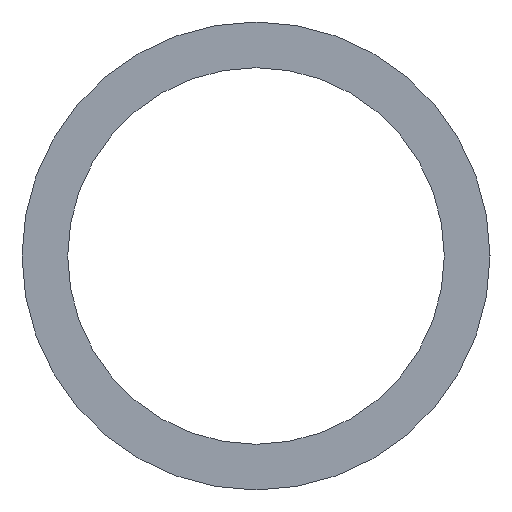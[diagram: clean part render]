
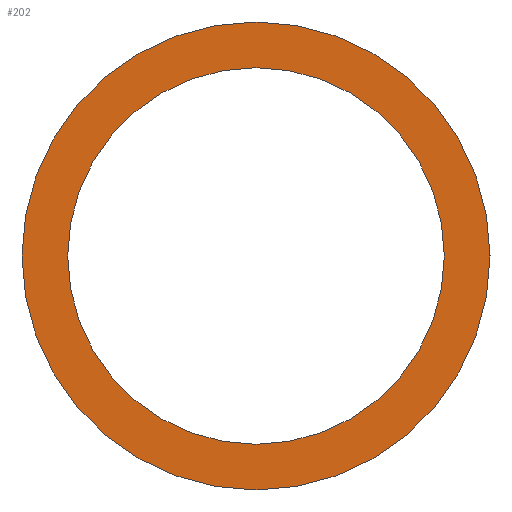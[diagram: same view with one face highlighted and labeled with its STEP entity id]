
A CAD part, left-side view. The second image highlights one B-rep face of the part: STEP entity #202.
In plain terms, the highlighted planar face has unit normal (-1, 0, 0).
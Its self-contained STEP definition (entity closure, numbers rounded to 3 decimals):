
#3 = CARTESIAN_POINT ( 'NONE',  ( 0., 0., 0. ) ) ;
#4 = DIRECTION ( 'NONE',  ( 1., 0., 0. ) ) ;
#5 = DIRECTION ( 'NONE',  ( 0., 0., -1. ) ) ;
#18 = CARTESIAN_POINT ( 'NONE',  ( 0., 0., 0. ) ) ;
#19 = DIRECTION ( 'NONE',  ( 1., 0., 0. ) ) ;
#20 = DIRECTION ( 'NONE',  ( 0., 0., -1. ) ) ;
#26 = CARTESIAN_POINT ( 'NONE',  ( 0., 0., 0. ) ) ;
#27 = DIRECTION ( 'NONE',  ( 1., 0., 0. ) ) ;
#28 = DIRECTION ( 'NONE',  ( 0., 0., -1. ) ) ;
#42 = CARTESIAN_POINT ( 'NONE',  ( 0., 0., 0. ) ) ;
#43 = DIRECTION ( 'NONE',  ( 1., 0., 0. ) ) ;
#44 = DIRECTION ( 'NONE',  ( 0., 0., -1. ) ) ;
#124 = ORIENTED_EDGE ( 'NONE', *, *, #208, .F. ) ;
#128 = DIRECTION ( 'NONE',  ( 0., 0., -1. ) ) ;
#129 = FACE_BOUND ( 'NONE', #136, .T. ) ;
#131 = VERTEX_POINT ( 'NONE', #154 ) ;
#134 = VERTEX_POINT ( 'NONE', #147 ) ;
#136 = EDGE_LOOP ( 'NONE', ( #175, #137 ) ) ;
#137 = ORIENTED_EDGE ( 'NONE', *, *, #215, .T. ) ;
#138 = EDGE_LOOP ( 'NONE', ( #124, #149 ) ) ;
#139 = VERTEX_POINT ( 'NONE', #142 ) ;
#141 = DIRECTION ( 'NONE',  ( 1., 0., 0. ) ) ;
#142 = CARTESIAN_POINT ( 'NONE',  ( 0., 0., 31.625 ) ) ;
#143 = PLANE ( 'NONE',  #228 ) ;
#144 = VERTEX_POINT ( 'NONE', #158 ) ;
#147 = CARTESIAN_POINT ( 'NONE',  ( 0., 0., -31.625 ) ) ;
#149 = ORIENTED_EDGE ( 'NONE', *, *, #210, .F. ) ;
#154 = CARTESIAN_POINT ( 'NONE',  ( 0., 0., 25.45 ) ) ;
#158 = CARTESIAN_POINT ( 'NONE',  ( 0., 0., -25.45 ) ) ;
#164 = FACE_OUTER_BOUND ( 'NONE', #138, .T. ) ;
#172 = CARTESIAN_POINT ( 'NONE',  ( 0., 0., 0. ) ) ;
#175 = ORIENTED_EDGE ( 'NONE', *, *, #204, .T. ) ;
#193 = CIRCLE ( 'NONE', #237, 25.45 ) ;
#202 = ADVANCED_FACE ( 'NONE', ( #164, #129 ), #143, .F. ) ;
#204 = EDGE_CURVE ( 'NONE', #131, #144, #193, .T. ) ;
#208 = EDGE_CURVE ( 'NONE', #139, #134, #222, .T. ) ;
#210 = EDGE_CURVE ( 'NONE', #134, #139, #233, .T. ) ;
#215 = EDGE_CURVE ( 'NONE', #144, #131, #235, .T. ) ;
#221 = AXIS2_PLACEMENT_3D ( 'NONE', #18, #19, #20 ) ;
#222 = CIRCLE ( 'NONE', #221, 31.625 ) ;
#226 = AXIS2_PLACEMENT_3D ( 'NONE', #26, #27, #28 ) ;
#228 = AXIS2_PLACEMENT_3D ( 'NONE', #172, #141, #128 ) ;
#232 = AXIS2_PLACEMENT_3D ( 'NONE', #42, #43, #44 ) ;
#233 = CIRCLE ( 'NONE', #226, 31.625 ) ;
#235 = CIRCLE ( 'NONE', #232, 25.45 ) ;
#237 = AXIS2_PLACEMENT_3D ( 'NONE', #3, #4, #5 ) ;
